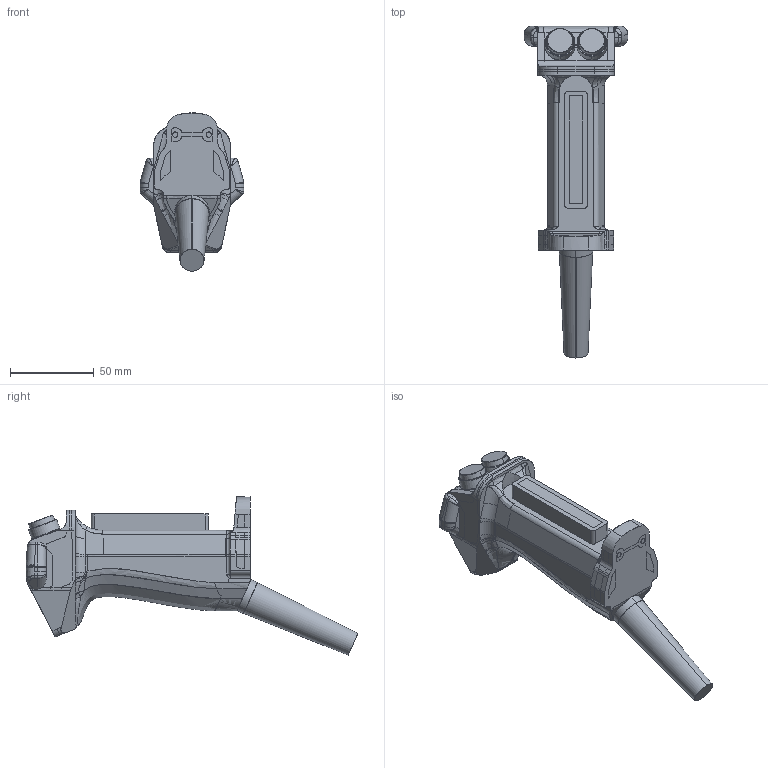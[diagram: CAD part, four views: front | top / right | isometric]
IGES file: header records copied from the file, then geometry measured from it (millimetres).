
Start section: SolidWorks IGES file using analytic representation for surfaces
Global section: file name: C:\catalog\sg-c1-21-mm.IGS; native system: SolidWorks 2019; preprocessor: SolidWorks 2019; author: 5131475; date: 230405.104017; units: millimetre
Bounding box: 62 x 198.33 x 94.55 mm (x, y, z)
Surface area: 33349.8 mm2 (no closed solid volume)
Topology: 0 solids, 0 shells, 442 faces, 4980 edges, 4959 vertices
Faces by surface type: bspline 324, revolution 118
